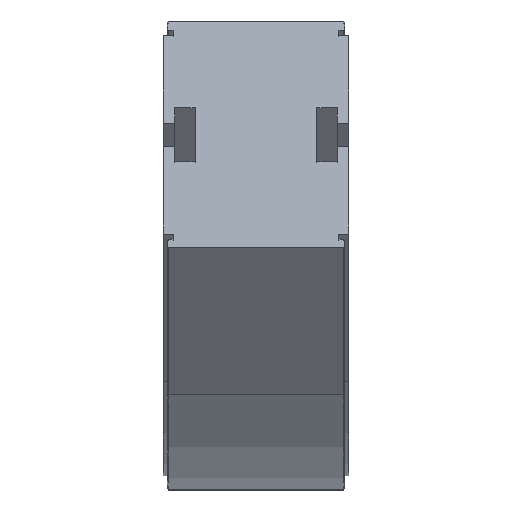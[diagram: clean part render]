
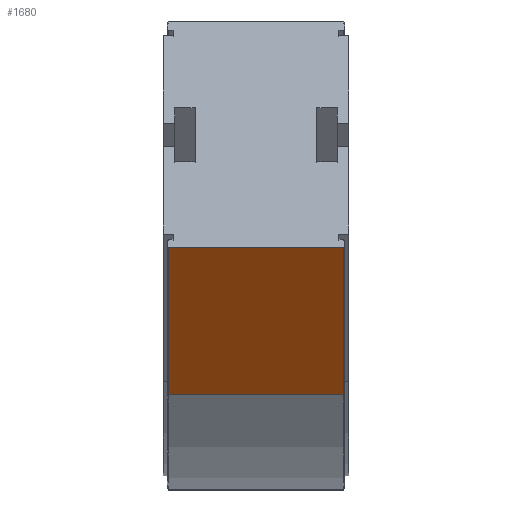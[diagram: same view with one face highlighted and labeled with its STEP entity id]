
A CAD part, top view. The second image highlights one B-rep face of the part: STEP entity #1680.
In plain terms, the highlighted planar face has unit normal (0, -0.94, 0.342).
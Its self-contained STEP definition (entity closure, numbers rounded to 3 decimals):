
#115 = FACE_OUTER_BOUND ( 'NONE', #1321, .T. ) ;
#117 = ORIENTED_EDGE ( 'NONE', *, *, #1359, .T. ) ;
#199 = ORIENTED_EDGE ( 'NONE', *, *, #638, .T. ) ;
#244 = DIRECTION ( 'NONE',  ( -1., 0., 0. ) ) ;
#264 = LINE ( 'NONE', #2391, #3098 ) ;
#288 = VERTEX_POINT ( 'NONE', #3086 ) ;
#305 = VECTOR ( 'NONE', #1080, 1000. ) ;
#433 = CARTESIAN_POINT ( 'NONE',  ( -30.65, 41.99, 476.329 ) ) ;
#594 = CARTESIAN_POINT ( 'NONE',  ( -30.65, -9.313, 335.375 ) ) ;
#638 = EDGE_CURVE ( 'NONE', #1771, #1827, #2990, .T. ) ;
#650 = LINE ( 'NONE', #674, #2835 ) ;
#674 = CARTESIAN_POINT ( 'NONE',  ( 30.65, -9.313, 335.375 ) ) ;
#823 = PLANE ( 'NONE',  #2134 ) ;
#1080 = DIRECTION ( 'NONE',  ( 0., 0.342, 0.94 ) ) ;
#1114 = CARTESIAN_POINT ( 'NONE',  ( 30.65, 41.99, 476.329 ) ) ;
#1298 = VECTOR ( 'NONE', #2520, 1000. ) ;
#1321 = EDGE_LOOP ( 'NONE', ( #2032, #117, #199, #2685 ) ) ;
#1326 = DIRECTION ( 'NONE',  ( 0., 0.342, 0.94 ) ) ;
#1359 = EDGE_CURVE ( 'NONE', #288, #1771, #650, .T. ) ;
#1419 = VERTEX_POINT ( 'NONE', #2760 ) ;
#1564 = CARTESIAN_POINT ( 'NONE',  ( -30.65, 41.99, 476.329 ) ) ;
#1680 = ADVANCED_FACE ( 'NONE', ( #115 ), #823, .F. ) ;
#1684 = LINE ( 'NONE', #594, #305 ) ;
#1771 = VERTEX_POINT ( 'NONE', #1114 ) ;
#1827 = VERTEX_POINT ( 'NONE', #433 ) ;
#1932 = EDGE_CURVE ( 'NONE', #288, #1419, #264, .T. ) ;
#2032 = ORIENTED_EDGE ( 'NONE', *, *, #1932, .F. ) ;
#2134 = AXIS2_PLACEMENT_3D ( 'NONE', #2513, #2774, #1326 ) ;
#2313 = EDGE_CURVE ( 'NONE', #1419, #1827, #1684, .T. ) ;
#2348 = DIRECTION ( 'NONE',  ( 0., 0.342, 0.94 ) ) ;
#2391 = CARTESIAN_POINT ( 'NONE',  ( -30.65, -9.313, 335.375 ) ) ;
#2513 = CARTESIAN_POINT ( 'NONE',  ( -30.65, -9.313, 335.375 ) ) ;
#2520 = DIRECTION ( 'NONE',  ( -1., 0., 0. ) ) ;
#2685 = ORIENTED_EDGE ( 'NONE', *, *, #2313, .F. ) ;
#2760 = CARTESIAN_POINT ( 'NONE',  ( -30.65, -9.313, 335.375 ) ) ;
#2774 = DIRECTION ( 'NONE',  ( 0., 0.94, -0.342 ) ) ;
#2835 = VECTOR ( 'NONE', #2348, 1000. ) ;
#2990 = LINE ( 'NONE', #1564, #1298 ) ;
#3086 = CARTESIAN_POINT ( 'NONE',  ( 30.65, -9.313, 335.375 ) ) ;
#3098 = VECTOR ( 'NONE', #244, 1000. ) ;
